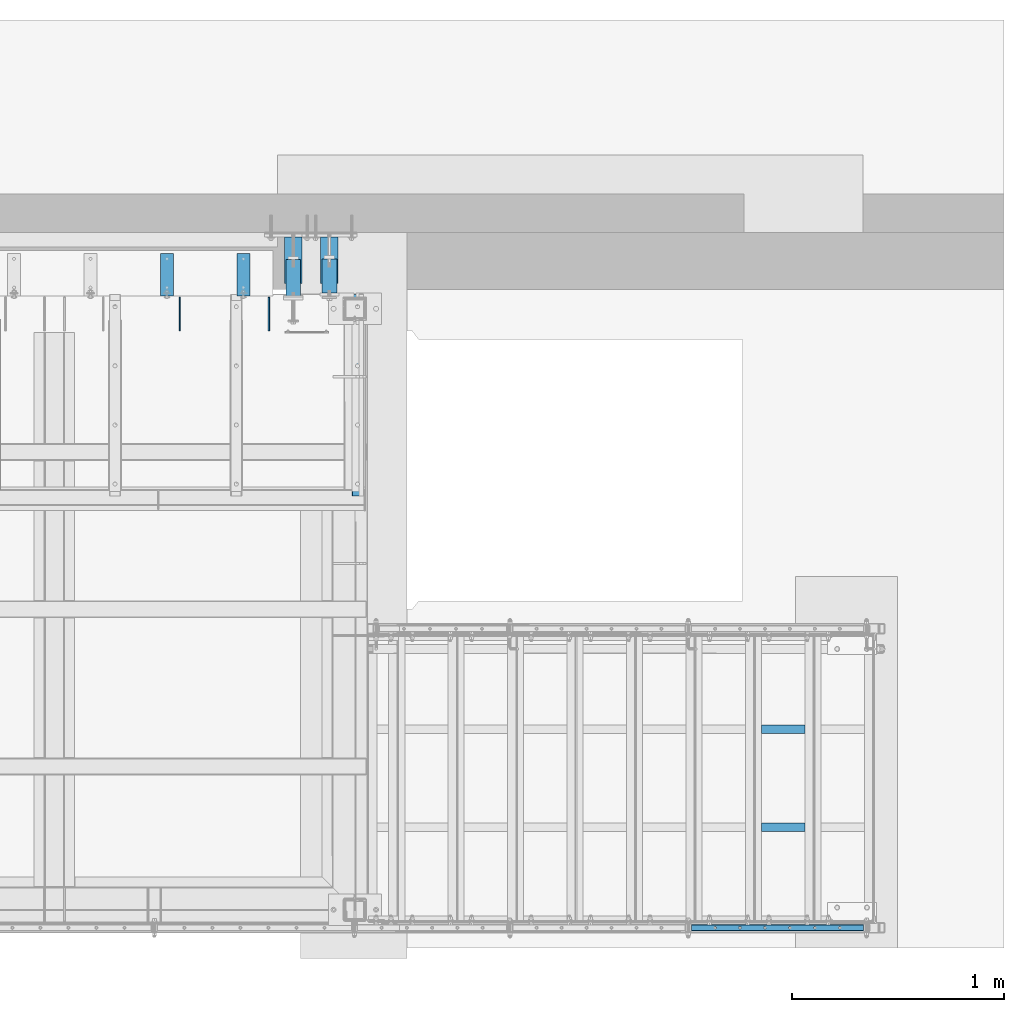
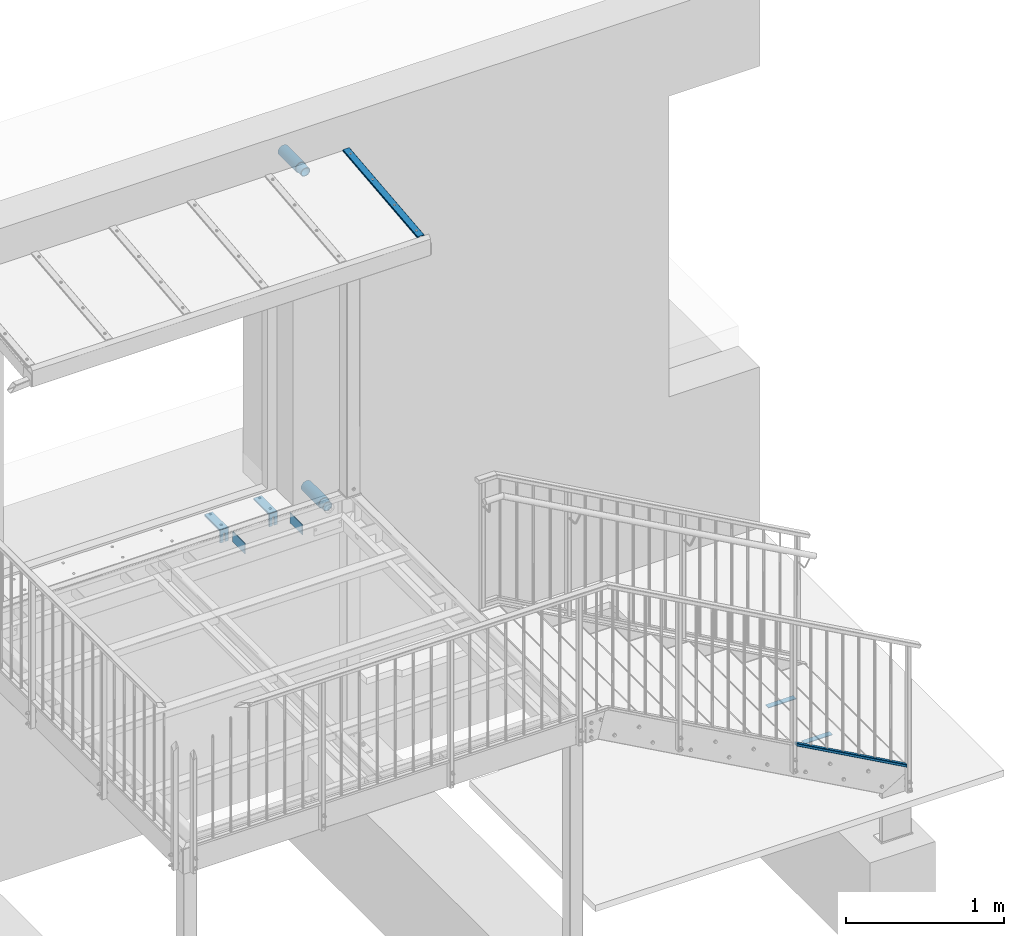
# One storey, part 21 of 116: 12 beams, 2 members, 12 openings.
"""IFC2X3 building model written with IfcOpenShell, lengths in millimetres."""

from ifc_helpers import new_model, entity, si_unit, converted_unit, point, frame, frame_2d, origin, origin_with_axes, origin_2d, origin_2d_with_axis, place, context, project, spatial, polyline, circle_curve, line_curve, trimmed, segment, composite_curve, rectangle, hollow_rectangle, circle, hollow_circle, outline, extrude, clip, halfspace, material, element, save


model = new_model("IFC2X3")

# Units and contexts
model_context = context("Model", 3, precision=1e-09, world=origin_with_axes())
ifc_project = project(units=[si_unit("LENGTHUNIT", "METRE", prefix="MILLI"), si_unit("AREAUNIT", "SQUARE_METRE"), si_unit("VOLUMEUNIT", "CUBIC_METRE"), converted_unit("PLANEANGLEUNIT", "DEGREE", entity("IfcPlaneAngleMeasure", 0.01745329), si_unit("PLANEANGLEUNIT", "RADIAN"), dimensions=[0, 0, 0, 0, 0, 0, 0])], contexts=[model_context])

# Site, building, storey
site_placement = place(None, origin_with_axes())
site = spatial("IfcSite", under=ifc_project, at=site_placement, Name="Site", CompositionType="ELEMENT")
building_placement = place(site_placement, origin_with_axes())
building = spatial("IfcBuilding", under=site, at=building_placement, Name="Struktur 1", CompositionType="ELEMENT")
storey_placement = place(building_placement, origin_with_axes())
storey = spatial("IfcBuildingStorey", under=building, at=storey_placement, Name="Default Storey", CompositionType="ELEMENT", Elevation=0.0)

# Member, openings
ifc_material_1 = material(Name="S235JR")
member_1_placement = place(None, frame((58179.549134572, 11080.325462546, 2512.640850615), z_axis=(0.0, -0.994521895, -0.104528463), x_axis=(1.0, 0.0, 0.0)))
member_1 = element("IfcMember", 1, at=member_1_placement, inside=storey, material=ifc_material_1, Name="-", ObjectType="-", context=model_context, shape_type="SweptSolid", body=[
    extrude(outline(composite_curve([segment(trimmed(line_curve((10.75, -4.5), (1.0, 0.0), 0.5), [point((10.75, -4.5))], [point((11.25, -4.5))], True, "CARTESIAN"), True, "CONTINUOUS"), segment(trimmed(line_curve((11.25, -4.5), (0.0, 1.0), 1.0), [point((11.25, -4.5))], [point((11.25, -3.5))], True, "CARTESIAN"), True, "CONTINUOUS"), segment(trimmed(line_curve((11.25, -3.5), (1.0, 0.0), 1.0), [point((11.25, -3.5))], [point((12.25, -3.5))], True, "CARTESIAN"), True, "CONTINUOUS"), segment(trimmed(line_curve((12.25, -3.5), (0.0, -1.0), 1.0), [point((12.25, -3.5))], [point((12.25, -4.5))], True, "CARTESIAN"), True, "CONTINUOUS"), segment(trimmed(line_curve((12.25, -4.5), (1.0, 0.0), 1.0), [point((12.25, -4.5))], [point((13.25, -4.5))], True, "CARTESIAN"), True, "CONTINUOUS"), segment(trimmed(line_curve((13.25, -4.5), (0.0, 1.0), 1.0), [point((13.25, -4.5))], [point((13.25, -3.5))], True, "CARTESIAN"), True, "CONTINUOUS"), segment(trimmed(line_curve((13.25, -3.5), (1.0, 0.0), 1.0), [point((13.25, -3.5))], [point((14.25, -3.5))], True, "CARTESIAN"), True, "CONTINUOUS"), segment(trimmed(line_curve((14.25, -3.5), (0.0, -1.0), 1.0), [point((14.25, -3.5))], [point((14.25, -4.5))], True, "CARTESIAN"), True, "CONTINUOUS"), segment(trimmed(line_curve((14.25, -4.5), (1.0, 0.0), 1.0), [point((14.25, -4.5))], [point((15.25, -4.5))], True, "CARTESIAN"), True, "CONTINUOUS"), segment(trimmed(line_curve((15.25, -4.5), (0.0, 1.0), 1.0), [point((15.25, -4.5))], [point((15.25, -3.5))], True, "CARTESIAN"), True, "CONTINUOUS"), segment(trimmed(line_curve((15.25, -3.5), (1.0, 0.0), 1.0), [point((15.25, -3.5))], [point((16.25, -3.5))], True, "CARTESIAN"), True, "CONTINUOUS"), segment(trimmed(line_curve((16.25, -3.5), (0.0, -1.0), 1.0), [point((16.25, -3.5))], [point((16.25, -4.5))], True, "CARTESIAN"), True, "CONTINUOUS"), segment(trimmed(line_curve((16.25, -4.5), (1.0, 0.0), 1.0), [point((16.25, -4.5))], [point((17.25, -4.5))], True, "CARTESIAN"), True, "CONTINUOUS"), segment(trimmed(line_curve((17.25, -4.5), (0.0, 1.0), 1.0), [point((17.25, -4.5))], [point((17.25, -3.5))], True, "CARTESIAN"), True, "CONTINUOUS"), segment(trimmed(line_curve((17.25, -3.5), (1.0, 0.0), 1.0), [point((17.25, -3.5))], [point((18.25, -3.5))], True, "CARTESIAN"), True, "CONTINUOUS"), segment(trimmed(line_curve((18.25, -3.5), (0.0, -1.0), 1.0), [point((18.25, -3.5))], [point((18.25, -4.5))], True, "CARTESIAN"), True, "CONTINUOUS"), segment(trimmed(line_curve((18.25, -4.5), (1.0, 0.0), 1.0), [point((18.25, -4.5))], [point((19.25, -4.5))], True, "CARTESIAN"), True, "CONTINUOUS"), segment(trimmed(line_curve((19.25, -4.5), (0.0, 1.0), 1.0), [point((19.25, -4.5))], [point((19.25, -3.5))], True, "CARTESIAN"), True, "CONTINUOUS"), segment(trimmed(line_curve((19.25, -3.5), (1.0, 0.0), 1.0), [point((19.25, -3.5))], [point((20.25, -3.5))], True, "CARTESIAN"), True, "CONTINUOUS"), segment(trimmed(line_curve((20.25, -3.5), (0.0, -1.0), 1.0), [point((20.25, -3.5))], [point((20.25, -4.5))], True, "CARTESIAN"), True, "CONTINUOUS"), segment(trimmed(line_curve((20.25, -4.5), (1.0, 0.0), 1.0), [point((20.25, -4.5))], [point((21.25, -4.5))], True, "CARTESIAN"), True, "CONTINUOUS"), segment(trimmed(line_curve((21.25, -4.5), (0.0, 1.0), 1.0), [point((21.25, -4.5))], [point((21.25, -3.5))], True, "CARTESIAN"), True, "CONTINUOUS"), segment(trimmed(line_curve((21.25, -3.5), (1.0, 0.0), 1.0), [point((21.25, -3.5))], [point((22.25, -3.5))], True, "CARTESIAN"), True, "CONTINUOUS"), segment(trimmed(line_curve((22.25, -3.5), (0.0, -1.0), 1.0), [point((22.25, -3.5))], [point((22.25, -4.5))], True, "CARTESIAN"), True, "CONTINUOUS"), segment(trimmed(line_curve((22.25, -4.5), (1.0, 0.0), 1.0), [point((22.25, -4.5))], [point((23.25, -4.5))], True, "CARTESIAN"), True, "CONTINUOUS"), segment(trimmed(line_curve((23.25, -4.5), (0.0, 1.0), 1.0), [point((23.25, -4.5))], [point((23.25, -3.5))], True, "CARTESIAN"), True, "CONTINUOUS"), segment(trimmed(line_curve((23.25, -3.5), (1.0, 0.0), 1.0), [point((23.25, -3.5))], [point((24.25, -3.5))], True, "CARTESIAN"), True, "CONTINUOUS"), segment(trimmed(line_curve((24.25, -3.5), (0.0, -1.0), 1.0), [point((24.25, -3.5))], [point((24.25, -4.5))], True, "CARTESIAN"), True, "CONTINUOUS"), segment(trimmed(line_curve((24.25, -4.5), (1.0, 0.0), 1.0), [point((24.25, -4.5))], [point((25.25, -4.5))], True, "CARTESIAN"), True, "CONTINUOUS"), segment(trimmed(line_curve((25.25, -4.5), (0.0, 1.0), 1.0), [point((25.25, -4.5))], [point((25.25, -3.5))], True, "CARTESIAN"), True, "CONTINUOUS"), segment(trimmed(line_curve((25.25, -3.5), (1.0, 0.0), 1.0), [point((25.25, -3.5))], [point((26.25, -3.5))], True, "CARTESIAN"), True, "CONTINUOUS"), segment(trimmed(line_curve((26.25, -3.5), (0.0, -1.0), 1.0), [point((26.25, -3.5))], [point((26.25, -4.5))], True, "CARTESIAN"), True, "CONTINUOUS"), segment(trimmed(line_curve((26.25, -4.5), (1.0, 0.0), 0.5), [point((26.25, -4.5))], [point((26.75, -4.5))], True, "CARTESIAN"), True, "CONTINUOUS"), segment(trimmed(line_curve((26.75, -4.5), (0.0, 1.0), 4.0), [point((26.75, -4.5))], [point((26.75, -0.5))], True, "CARTESIAN"), True, "CONTINUOUS"), segment(trimmed(line_curve((26.75, -0.5), (-1.0, 0.0), 1.75), [point((26.75, -0.5))], [point((25.0, -0.5))], True, "CARTESIAN"), True, "CONTINUOUS"), segment(trimmed(line_curve((25.0, -0.5), (0.0, 1.0), 1.5), [point((25.0, -0.5))], [point((25.0, 1.0))], True, "CARTESIAN"), True, "CONTINUOUS"), segment(trimmed(circle_curve(frame_2d((21.499999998, 0.999999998), x_axis=(1.0, 0.0)), 3.500000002), [point((25.0, 1.0))], [point((21.5, 4.5))], True, "CARTESIAN"), True, "CONTINUOUS"), segment(trimmed(line_curve((21.5, 4.5), (-1.0, 0.0), 43.0), [point((21.5, 4.5))], [point((-21.5, 4.5))], True, "CARTESIAN"), True, "CONTINUOUS"), segment(trimmed(circle_curve(frame_2d((-21.499999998, 0.999999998), x_axis=(1.0, 0.0)), 3.500000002), [point((-21.5, 4.5))], [point((-25.0, 1.0))], True, "CARTESIAN"), True, "CONTINUOUS"), segment(trimmed(line_curve((-25.0, 1.0), (0.0, -1.0), 1.5), [point((-25.0, 1.0))], [point((-25.0, -0.5))], True, "CARTESIAN"), True, "CONTINUOUS"), segment(trimmed(line_curve((-25.0, -0.5), (-1.0, 0.0), 1.75), [point((-25.0, -0.5))], [point((-26.75, -0.5))], True, "CARTESIAN"), True, "CONTINUOUS"), segment(trimmed(line_curve((-26.75, -0.5), (0.0, -1.0), 4.0), [point((-26.75, -0.5))], [point((-26.75, -4.5))], True, "CARTESIAN"), True, "CONTINUOUS"), segment(trimmed(line_curve((-26.75, -4.5), (1.0, 0.0), 0.5), [point((-26.75, -4.5))], [point((-26.25, -4.5))], True, "CARTESIAN"), True, "CONTINUOUS"), segment(trimmed(line_curve((-26.25, -4.5), (0.0, 1.0), 1.0), [point((-26.25, -4.5))], [point((-26.25, -3.5))], True, "CARTESIAN"), True, "CONTINUOUS"), segment(trimmed(line_curve((-26.25, -3.5), (1.0, 0.0), 1.0), [point((-26.25, -3.5))], [point((-25.25, -3.5))], True, "CARTESIAN"), True, "CONTINUOUS"), segment(trimmed(line_curve((-25.25, -3.5), (0.0, -1.0), 1.0), [point((-25.25, -3.5))], [point((-25.25, -4.5))], True, "CARTESIAN"), True, "CONTINUOUS"), segment(trimmed(line_curve((-25.25, -4.5), (1.0, 0.0), 1.0), [point((-25.25, -4.5))], [point((-24.25, -4.5))], True, "CARTESIAN"), True, "CONTINUOUS"), segment(trimmed(line_curve((-24.25, -4.5), (0.0, 1.0), 1.0), [point((-24.25, -4.5))], [point((-24.25, -3.5))], True, "CARTESIAN"), True, "CONTINUOUS"), segment(trimmed(line_curve((-24.25, -3.5), (1.0, 0.0), 1.0), [point((-24.25, -3.5))], [point((-23.25, -3.5))], True, "CARTESIAN"), True, "CONTINUOUS"), segment(trimmed(line_curve((-23.25, -3.5), (0.0, -1.0), 1.0), [point((-23.25, -3.5))], [point((-23.25, -4.5))], True, "CARTESIAN"), True, "CONTINUOUS"), segment(trimmed(line_curve((-23.25, -4.5), (1.0, 0.0), 1.0), [point((-23.25, -4.5))], [point((-22.25, -4.5))], True, "CARTESIAN"), True, "CONTINUOUS"), segment(trimmed(line_curve((-22.25, -4.5), (0.0, 1.0), 1.0), [point((-22.25, -4.5))], [point((-22.25, -3.5))], True, "CARTESIAN"), True, "CONTINUOUS"), segment(trimmed(line_curve((-22.25, -3.5), (1.0, 0.0), 1.0), [point((-22.25, -3.5))], [point((-21.25, -3.5))], True, "CARTESIAN"), True, "CONTINUOUS"), segment(trimmed(line_curve((-21.25, -3.5), (0.0, -1.0), 1.0), [point((-21.25, -3.5))], [point((-21.25, -4.5))], True, "CARTESIAN"), True, "CONTINUOUS"), segment(trimmed(line_curve((-21.25, -4.5), (1.0, 0.0), 1.0), [point((-21.25, -4.5))], [point((-20.25, -4.5))], True, "CARTESIAN"), True, "CONTINUOUS"), segment(trimmed(line_curve((-20.25, -4.5), (0.0, 1.0), 1.0), [point((-20.25, -4.5))], [point((-20.25, -3.5))], True, "CARTESIAN"), True, "CONTINUOUS"), segment(trimmed(line_curve((-20.25, -3.5), (1.0, 0.0), 1.0), [point((-20.25, -3.5))], [point((-19.25, -3.5))], True, "CARTESIAN"), True, "CONTINUOUS"), segment(trimmed(line_curve((-19.25, -3.5), (0.0, -1.0), 1.0), [point((-19.25, -3.5))], [point((-19.25, -4.5))], True, "CARTESIAN"), True, "CONTINUOUS"), segment(trimmed(line_curve((-19.25, -4.5), (1.0, 0.0), 1.0), [point((-19.25, -4.5))], [point((-18.25, -4.5))], True, "CARTESIAN"), True, "CONTINUOUS"), segment(trimmed(line_curve((-18.25, -4.5), (0.0, 1.0), 1.0), [point((-18.25, -4.5))], [point((-18.25, -3.5))], True, "CARTESIAN"), True, "CONTINUOUS"), segment(trimmed(line_curve((-18.25, -3.5), (1.0, 0.0), 1.0), [point((-18.25, -3.5))], [point((-17.25, -3.5))], True, "CARTESIAN"), True, "CONTINUOUS"), segment(trimmed(line_curve((-17.25, -3.5), (0.0, -1.0), 1.0), [point((-17.25, -3.5))], [point((-17.25, -4.5))], True, "CARTESIAN"), True, "CONTINUOUS"), segment(trimmed(line_curve((-17.25, -4.5), (1.0, 0.0), 1.0), [point((-17.25, -4.5))], [point((-16.25, -4.5))], True, "CARTESIAN"), True, "CONTINUOUS"), segment(trimmed(line_curve((-16.25, -4.5), (0.0, 1.0), 1.0), [point((-16.25, -4.5))], [point((-16.25, -3.5))], True, "CARTESIAN"), True, "CONTINUOUS"), segment(trimmed(line_curve((-16.25, -3.5), (1.0, 0.0), 1.0), [point((-16.25, -3.5))], [point((-15.25, -3.5))], True, "CARTESIAN"), True, "CONTINUOUS"), segment(trimmed(line_curve((-15.25, -3.5), (0.0, -1.0), 1.0), [point((-15.25, -3.5))], [point((-15.25, -4.5))], True, "CARTESIAN"), True, "CONTINUOUS"), segment(trimmed(line_curve((-15.25, -4.5), (1.0, 0.0), 1.0), [point((-15.25, -4.5))], [point((-14.25, -4.5))], True, "CARTESIAN"), True, "CONTINUOUS"), segment(trimmed(line_curve((-14.25, -4.5), (0.0, 1.0), 1.0), [point((-14.25, -4.5))], [point((-14.25, -3.5))], True, "CARTESIAN"), True, "CONTINUOUS"), segment(trimmed(line_curve((-14.25, -3.5), (1.0, 0.0), 1.0), [point((-14.25, -3.5))], [point((-13.25, -3.5))], True, "CARTESIAN"), True, "CONTINUOUS"), segment(trimmed(line_curve((-13.25, -3.5), (0.0, -1.0), 1.0), [point((-13.25, -3.5))], [point((-13.25, -4.5))], True, "CARTESIAN"), True, "CONTINUOUS"), segment(trimmed(line_curve((-13.25, -4.5), (1.0, 0.0), 1.0), [point((-13.25, -4.5))], [point((-12.25, -4.5))], True, "CARTESIAN"), True, "CONTINUOUS"), segment(trimmed(line_curve((-12.25, -4.5), (0.0, 1.0), 1.0), [point((-12.25, -4.5))], [point((-12.25, -3.5))], True, "CARTESIAN"), True, "CONTINUOUS"), segment(trimmed(line_curve((-12.25, -3.5), (1.0, 0.0), 1.0), [point((-12.25, -3.5))], [point((-11.25, -3.5))], True, "CARTESIAN"), True, "CONTINUOUS"), segment(trimmed(line_curve((-11.25, -3.5), (0.0, -1.0), 1.0), [point((-11.25, -3.5))], [point((-11.25, -4.5))], True, "CARTESIAN"), True, "CONTINUOUS"), segment(trimmed(line_curve((-11.25, -4.5), (1.0, 0.0), 0.5), [point((-11.25, -4.5))], [point((-10.75, -4.5))], True, "CARTESIAN"), True, "CONTINUOUS"), segment(trimmed(line_curve((-10.75, -4.5), (0.0, 1.0), 4.0), [point((-10.75, -4.5))], [point((-10.75, -0.5))], True, "CARTESIAN"), True, "CONTINUOUS"), segment(trimmed(line_curve((-10.75, -0.5), (-1.0, 0.0), 1.75), [point((-10.75, -0.5))], [point((-12.5, -0.5))], True, "CARTESIAN"), True, "CONTINUOUS"), segment(trimmed(line_curve((-12.5, -0.5), (0.0, 1.0), 3.0), [point((-12.5, -0.5))], [point((-12.5, 2.5))], True, "CARTESIAN"), True, "CONTINUOUS"), segment(trimmed(line_curve((-12.5, 2.5), (1.0, 0.0), 25.0), [point((-12.5, 2.5))], [point((12.5, 2.5))], True, "CARTESIAN"), True, "CONTINUOUS"), segment(trimmed(line_curve((12.5, 2.5), (0.0, -1.0), 3.0), [point((12.5, 2.5))], [point((12.5, -0.5))], True, "CARTESIAN"), True, "CONTINUOUS"), segment(trimmed(line_curve((12.5, -0.5), (-1.0, 0.0), 1.75), [point((12.5, -0.5))], [point((10.75, -0.5))], True, "CARTESIAN"), True, "CONTINUOUS"), segment(trimmed(line_curve((10.75, -0.5), (0.0, -1.0), 4.0), [point((10.75, -0.5))], [point((10.75, -4.5))], True, "CARTESIAN"), True, "CONTINUOUS")], self_intersect=False), holes=[composite_curve([segment(trimmed(line_curve((16.25, -0.5), (1.0, 0.0), 5.0), [point((16.25, -0.5))], [point((21.25, -0.5))], True, "CARTESIAN"), True, "CONTINUOUS"), segment(trimmed(line_curve((21.25, -0.5), (0.0, 1.0), 1.5), [point((21.25, -0.5))], [point((21.25, 1.0))], True, "CARTESIAN"), True, "CONTINUOUS"), segment(trimmed(line_curve((21.25, 1.0), (1.0, 0.0), 2.25), [point((21.25, 1.0))], [point((23.5, 1.0))], True, "CARTESIAN"), True, "CONTINUOUS"), segment(trimmed(circle_curve(frame_2d((21.499999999, 0.999999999), x_axis=(1.0, 0.0)), 2.000000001), [point((23.5, 1.0))], [point((21.5, 3.0))], True, "CARTESIAN"), True, "CONTINUOUS"), segment(trimmed(line_curve((21.5, 3.0), (-1.0, 0.0), 7.5), [point((21.5, 3.0))], [point((14.0, 3.0))], True, "CARTESIAN"), True, "CONTINUOUS"), segment(trimmed(line_curve((14.0, 3.0), (0.0, -1.0), 2.0), [point((14.0, 3.0))], [point((14.0, 1.0))], True, "CARTESIAN"), True, "CONTINUOUS"), segment(trimmed(line_curve((14.0, 1.0), (1.0, 0.0), 2.25), [point((14.0, 1.0))], [point((16.25, 1.0))], True, "CARTESIAN"), True, "CONTINUOUS"), segment(trimmed(line_curve((16.25, 1.0), (0.0, -1.0), 1.5), [point((16.25, 1.0))], [point((16.25, -0.5))], True, "CARTESIAN"), True, "CONTINUOUS")], self_intersect=False), composite_curve([segment(trimmed(line_curve((-16.25, -0.5), (0.0, 1.0), 1.5), [point((-16.25, -0.5))], [point((-16.25, 1.0))], True, "CARTESIAN"), True, "CONTINUOUS"), segment(trimmed(line_curve((-16.25, 1.0), (1.0, 0.0), 2.25), [point((-16.25, 1.0))], [point((-14.0, 1.0))], True, "CARTESIAN"), True, "CONTINUOUS"), segment(trimmed(line_curve((-14.0, 1.0), (0.0, 1.0), 2.0), [point((-14.0, 1.0))], [point((-14.0, 3.0))], True, "CARTESIAN"), True, "CONTINUOUS"), segment(trimmed(line_curve((-14.0, 3.0), (-1.0, 0.0), 7.5), [point((-14.0, 3.0))], [point((-21.5, 3.0))], True, "CARTESIAN"), True, "CONTINUOUS"), segment(trimmed(circle_curve(frame_2d((-21.499999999, 0.999999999), x_axis=(1.0, 0.0)), 2.000000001), [point((-21.5, 3.0))], [point((-23.5, 1.0))], True, "CARTESIAN"), True, "CONTINUOUS"), segment(trimmed(line_curve((-23.5, 1.0), (1.0, 0.0), 2.25), [point((-23.5, 1.0))], [point((-21.25, 1.0))], True, "CARTESIAN"), True, "CONTINUOUS"), segment(trimmed(line_curve((-21.25, 1.0), (0.0, -1.0), 1.5), [point((-21.25, 1.0))], [point((-21.25, -0.5))], True, "CARTESIAN"), True, "CONTINUOUS"), segment(trimmed(line_curve((-21.25, -0.5), (1.0, 0.0), 5.0), [point((-21.25, -0.5))], [point((-16.25, -0.5))], True, "CARTESIAN"), True, "CONTINUOUS")], self_intersect=False)]), origin(), (0.0, 0.0, -1.0), 954.995580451),
])
opening_1_placement = place(member_1_placement, frame((2e-09, 2.0, -897.497790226), z_axis=(0.0, 1.0, 0.0), x_axis=(1.0, 0.0, 0.0)))
element("IfcOpeningElement", 2, at=opening_1_placement, cuts=member_1, ObjectType="Opening", context=model_context, shape_type="SweptSolid", body=[
    extrude(circle(Radius=6.001, at=origin_2d_with_axis()), origin(), (0.0, 0.0, 1.0), 3.0),
])
opening_2_placement = place(member_1_placement, frame((2e-09, 2.0, -337.497790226), z_axis=(0.0, 1.0, 0.0), x_axis=(1.0, 0.0, 0.0)))
element("IfcOpeningElement", 3, at=opening_2_placement, cuts=member_1, ObjectType="Opening", context=model_context, shape_type="SweptSolid", body=[
    extrude(circle(Radius=6.001, at=origin_2d_with_axis()), origin(), (0.0, 0.0, 1.0), 3.0),
])
opening_3_placement = place(member_1_placement, frame((2e-09, 2.0, -57.497790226), z_axis=(0.0, 1.0, 0.0), x_axis=(1.0, 0.0, 0.0)))
element("IfcOpeningElement", 4, at=opening_3_placement, cuts=member_1, ObjectType="Opening", context=model_context, shape_type="SweptSolid", body=[
    extrude(circle(Radius=6.001, at=origin_2d_with_axis()), origin(), (0.0, 0.0, 1.0), 3.0),
])
opening_4_placement = place(member_1_placement, frame((2e-09, 2.0, -617.497790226), z_axis=(0.0, 1.0, 0.0), x_axis=(1.0, 0.0, 0.0)))
element("IfcOpeningElement", 5, at=opening_4_placement, cuts=member_1, ObjectType="Opening", context=model_context, shape_type="SweptSolid", body=[
    extrude(circle(Radius=6.001, at=origin_2d_with_axis()), origin(), (0.0, 0.0, 1.0), 3.0),
])

# Beams
ifc_material_2 = material(Name="Gummi")
for number, where, z_axis, x_axis in (
    (6, (57642.050634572, 12222.358883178, -11.5), (0.0, -1.0, 0.0), (1.0, 0.0, 0.0)),
    (7, (57282.050634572, 12222.358883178, -11.5), (0.0, -1.0, 0.0), (1.0, 0.0, 0.0)),
):
    element("IfcBeam", number, at=place(None, frame(where, z_axis=z_axis, x_axis=x_axis)), inside=storey, material=ifc_material_2, Name="-", ObjectType="-", context=model_context, shape_type="SweptSolid", body=[
        extrude(outline(polyline([(-30.0, 1.5), (-30.0, -1.5), (30.0, -1.5), (30.0, 1.5), (-30.0, 1.5)])), origin(), (0.0, 0.0, 1.0), 200.0),
    ])
beam_1_placement = place(None, frame((58047.049134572, 12301.357883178, -115.0), z_axis=(0.0, 1.0, 0.0), x_axis=(-1.0, 0.0, 0.0)))
element("IfcBeam", 8, at=beam_1_placement, inside=storey, material=ifc_material_1, Name="Girder", ObjectType="Girder", context=model_context, shape_type="SweptSolid", body=[
    extrude(hollow_circle(Radius=41.25, WallThickness=5.0, at=origin_2d()), origin(), (0.0, 0.0, -1.0), 220.0),
])
beam_2_placement = place(None, frame((58047.049134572, 12037.357883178, -115.0), z_axis=(0.0, 1.0, 0.0), x_axis=(-1.0, 0.0, 0.0)))
element("IfcBeam", 9, at=beam_2_placement, inside=storey, material=ifc_material_1, Name="Girder", ObjectType="Girder", context=model_context, shape_type="SweptSolid", body=[
    extrude(hollow_circle(Radius=35.0, WallThickness=5.0, at=origin_2d()), origin(), (0.0, 0.0, 1.0), 160.0),
])
beam_3_placement = place(None, frame((57877.049134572, 12301.357883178, 2545.0), z_axis=(0.0, 1.0, 0.0), x_axis=(-1.0, 0.0, 0.0)))
element("IfcBeam", 10, at=beam_3_placement, inside=storey, material=ifc_material_1, Name="Girder", ObjectType="Girder", context=model_context, shape_type="SweptSolid", body=[
    extrude(hollow_circle(Radius=41.25, WallThickness=5.0, at=origin_2d()), origin(), (0.0, 0.0, -1.0), 220.0),
])
beam_4_placement = place(None, frame((57877.049134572, 11968.647762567, 2545.0), z_axis=(0.0, 1.0, 0.0), x_axis=(-1.0, 0.0, 0.0)))
element("IfcBeam", 11, at=beam_4_placement, inside=storey, material=ifc_material_1, Name="Girder", ObjectType="Girder", context=model_context, shape_type="Clipping", body=[
    clip(extrude(hollow_circle(Radius=35.0, WallThickness=5.0, at=origin_2d()), origin(), (0.0, 0.0, 1.0), 224.770120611), halfspace(frame((57877.049134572, -1267.425508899, 186.661563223), z_axis=(0.0, 0.104528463, 0.994521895), x_axis=(1.0, 0.0, 0.0)), True)),
])

# Beam, opening
ifc_material_3 = material(Name="Alu")
beam_5_placement = place(None, frame((57252.050634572, 12122.358883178, -63.0), z_axis=(1.0, 0.0, 0.0), x_axis=(0.0, 1.0, 0.0)))
beam_5 = element("IfcBeam", 12, at=beam_5_placement, inside=storey, material=ifc_material_3, Name="-", ObjectType="-", context=model_context, shape_type="SweptSolid", body=[
    extrude(outline(polyline([(-100.0, -50.0), (-90.0, -50.0), (-90.0, 40.0), (100.0, 40.0), (100.0, 50.0), (-100.0, 50.0), (-100.0, -50.0)])), origin(), (0.0, 0.0, 1.0), 60.0),
])
opening_5_placement = place(beam_5_placement, frame((-200.1, -53.501, 23.499), z_axis=(-1.0, 0.0, 0.0), x_axis=(0.0, -0.707106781, 0.707106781)))
element("IfcOpeningElement", 13, at=opening_5_placement, cuts=beam_5, ObjectType="Opening", context=model_context, shape_type="SweptSolid", body=[
    extrude(outline(composite_curve([segment(trimmed(circle_curve(frame_2d((4.596194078, 4.596194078), x_axis=(1.0, 0.0)), 6.5), [point((0.0, 0.0))], [point((9.192388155, 0.0))], True, "CARTESIAN"), True, "CONTINUOUS"), segment(trimmed(line_curve((9.192388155, 0.0), (0.707106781, 0.707106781), 0.002), [point((9.192388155, 0.0))], [point((9.193802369, 0.001414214))], True, "CARTESIAN"), True, "CONTINUOUS"), segment(trimmed(circle_curve(frame_2d((4.597608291, 4.597608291), x_axis=(1.0, 0.0)), 6.5), [point((9.193802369, 0.001414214))], [point((9.193802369, 9.193802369))], True, "CARTESIAN"), True, "CONTINUOUS"), segment(trimmed(line_curve((9.193802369, 9.193802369), (-0.707106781, 0.707106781), 67.002), [point((9.193802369, 9.193802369))], [point((-38.183766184, 56.571370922))], True, "CARTESIAN"), True, "CONTINUOUS"), segment(trimmed(circle_curve(frame_2d((-42.779960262, 51.975176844), x_axis=(1.0, 0.0)), 6.5), [point((-38.183766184, 56.571370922))], [point((-47.376154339, 56.571370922))], True, "CARTESIAN"), True, "CONTINUOUS"), segment(trimmed(line_curve((-47.376154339, 56.571370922), (-0.707106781, -0.707106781), 0.002), [point((-47.376154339, 56.571370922))], [point((-47.377568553, 56.569956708))], True, "CARTESIAN"), True, "CONTINUOUS"), segment(trimmed(circle_curve(frame_2d((-42.781374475, 51.973762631), x_axis=(1.0, 0.0)), 6.5), [point((-47.377568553, 56.569956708))], [point((-47.377568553, 47.377568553))], True, "CARTESIAN"), True, "CONTINUOUS"), segment(trimmed(line_curve((-47.377568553, 47.377568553), (0.707106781, -0.707106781), 67.002), [point((-47.377568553, 47.377568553))], [point((0.0, 0.0))], True, "CARTESIAN"), True, "CONTINUOUS")], self_intersect=False)), origin(), (0.0, 0.0, -1.0), 400.2),
])

beam_6_placement = place(None, frame((57612.050634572, 12122.358883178, -63.0), z_axis=(1.0, 0.0, 0.0), x_axis=(0.0, 1.0, 0.0)))
beam_6 = element("IfcBeam", 14, at=beam_6_placement, inside=storey, material=ifc_material_3, Name="-", ObjectType="-", context=model_context, shape_type="SweptSolid", body=[
    extrude(outline(polyline([(-100.0, -50.0), (-90.0, -50.0), (-90.0, 40.0), (100.0, 40.0), (100.0, 50.0), (-100.0, 50.0), (-100.0, -50.0)])), origin(), (0.0, 0.0, 1.0), 60.0),
])
opening_6_placement = place(beam_6_placement, frame((-200.1, -53.501, 23.499), z_axis=(-1.0, 0.0, 0.0), x_axis=(0.0, -0.707106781, 0.707106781)))
element("IfcOpeningElement", 15, at=opening_6_placement, cuts=beam_6, ObjectType="Opening", context=model_context, shape_type="SweptSolid", body=[
    extrude(outline(composite_curve([segment(trimmed(circle_curve(frame_2d((4.596194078, 4.596194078), x_axis=(1.0, 0.0)), 6.5), [point((0.0, 0.0))], [point((9.192388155, 0.0))], True, "CARTESIAN"), True, "CONTINUOUS"), segment(trimmed(line_curve((9.192388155, 0.0), (0.707106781, 0.707106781), 0.002), [point((9.192388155, 0.0))], [point((9.193802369, 0.001414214))], True, "CARTESIAN"), True, "CONTINUOUS"), segment(trimmed(circle_curve(frame_2d((4.597608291, 4.597608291), x_axis=(1.0, 0.0)), 6.5), [point((9.193802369, 0.001414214))], [point((9.193802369, 9.193802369))], True, "CARTESIAN"), True, "CONTINUOUS"), segment(trimmed(line_curve((9.193802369, 9.193802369), (-0.707106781, 0.707106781), 67.002), [point((9.193802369, 9.193802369))], [point((-38.183766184, 56.571370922))], True, "CARTESIAN"), True, "CONTINUOUS"), segment(trimmed(circle_curve(frame_2d((-42.779960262, 51.975176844), x_axis=(1.0, 0.0)), 6.5), [point((-38.183766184, 56.571370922))], [point((-47.376154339, 56.571370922))], True, "CARTESIAN"), True, "CONTINUOUS"), segment(trimmed(line_curve((-47.376154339, 56.571370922), (-0.707106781, -0.707106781), 0.002), [point((-47.376154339, 56.571370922))], [point((-47.377568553, 56.569956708))], True, "CARTESIAN"), True, "CONTINUOUS"), segment(trimmed(circle_curve(frame_2d((-42.781374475, 51.973762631), x_axis=(1.0, 0.0)), 6.5), [point((-47.377568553, 56.569956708))], [point((-47.377568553, 47.377568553))], True, "CARTESIAN"), True, "CONTINUOUS"), segment(trimmed(line_curve((-47.377568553, 47.377568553), (0.707106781, -0.707106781), 67.002), [point((-47.377568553, 47.377568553))], [point((0.0, 0.0))], True, "CARTESIAN"), True, "CONTINUOUS")], self_intersect=False)), origin(), (0.0, 0.0, -1.0), 400.2),
])

# Beams
for number, where, z_axis, x_axis in (
    (16, (60286.049134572, 9981.358883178, -1130.5), (1.0, 0.0, 0.0), (0.0, 0.0, 1.0)),
    (17, (60286.049134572, 9521.358883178, -1130.5), (1.0, 0.0, 0.0), (0.0, 0.0, 1.0)),
):
    element("IfcBeam", number, at=place(None, frame(where, z_axis=z_axis, x_axis=x_axis)), inside=storey, material=ifc_material_1, Name="-", ObjectType="-", context=model_context, shape_type="SweptSolid", body=[
        extrude(rectangle(XDim=5.0, YDim=40.0, at=origin_2d()), origin(), (0.0, 0.0, -1.0), 204.0),
    ])

# Member, openings
member_2_placement = place(None, frame((60580.076890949, 9047.359883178, -1196.01111299), z_axis=(0.874893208, 0.0, -0.484315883), x_axis=(0.484315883, 0.0, 0.874893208)))
member_2 = element("IfcMember", 18, at=member_2_placement, inside=storey, material=ifc_material_1, Name="-", ObjectType="-", context=model_context, shape_type="Clipping", body=[
    clip(clip(extrude(hollow_rectangle(XDim=20.0, YDim=30.0, WallThickness=2.0, InnerFilletRadius=2.0, OuterFilletRadius=4.0, at=origin_2d()), origin(), (0.0, 0.0, -1.0), 967.0386111), halfspace(frame((1037.650386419, 9047.359883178, -595.02041479), z_axis=(-0.484315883, 0.0, -0.874893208), x_axis=(0.0, 1.0, 0.0)), True)), halfspace(frame((645.355489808, 9047.359883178, -1303.682163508), z_axis=(0.484315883, 0.0, 0.874893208), x_axis=(0.0, -1.0, 0.0)), True)),
])
opening_7_placement = place(member_2_placement, frame((148.612357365, 0.0, -908.254290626), z_axis=(0.874893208, 0.0, -0.484315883), x_axis=(0.0, 1.0, 0.0)))
element("IfcOpeningElement", 19, at=opening_7_placement, cuts=member_2, ObjectType="Opening", context=model_context, shape_type="SweptSolid", body=[
    extrude(outline(circle_curve(frame_2d((0.0, 6.051), x_axis=(1.0, 0.0)), 6.051)), origin(), (0.0, 0.0, -1.0), 169.888767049),
])
opening_8_placement = place(member_2_placement, frame((262.35740189, 0.0, -702.779371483), z_axis=(0.874893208, 0.0, -0.484315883), x_axis=(0.0, 1.0, 0.0)))
element("IfcOpeningElement", 20, at=opening_8_placement, cuts=member_2, ObjectType="Opening", context=model_context, shape_type="SweptSolid", body=[
    extrude(outline(circle_curve(frame_2d((0.0, 6.051), x_axis=(1.0, 0.0)), 6.051)), origin(), (0.0, 0.0, -1.0), 299.898971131),
])
opening_9_placement = place(member_2_placement, frame((205.484879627, 0.0, -805.516831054), z_axis=(0.874893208, 0.0, -0.484315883), x_axis=(0.0, 1.0, 0.0)))
element("IfcOpeningElement", 21, at=opening_9_placement, cuts=member_2, ObjectType="Opening", context=model_context, shape_type="SweptSolid", body=[
    extrude(outline(circle_curve(frame_2d((0.0, 6.051), x_axis=(1.0, 0.0)), 6.051)), origin(), (0.0, 0.0, -1.0), 234.89386909),
])
opening_10_placement = place(member_2_placement, frame((376.102446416, 0.0, -497.30445234), z_axis=(0.874893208, 0.0, -0.484315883), x_axis=(0.0, 1.0, 0.0)))
element("IfcOpeningElement", 22, at=opening_10_placement, cuts=member_2, ObjectType="Opening", context=model_context, shape_type="SweptSolid", body=[
    extrude(outline(circle_curve(frame_2d((0.0, 6.051), x_axis=(1.0, 0.0)), 6.051)), origin(), (0.0, 0.0, -1.0), 429.909175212),
])
opening_11_placement = place(member_2_placement, frame((319.229924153, 0.0, -600.041911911), z_axis=(0.874893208, 0.0, -0.484315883), x_axis=(0.0, 1.0, 0.0)))
element("IfcOpeningElement", 23, at=opening_11_placement, cuts=member_2, ObjectType="Opening", context=model_context, shape_type="SweptSolid", body=[
    extrude(outline(circle_curve(frame_2d((0.0, 6.051), x_axis=(1.0, 0.0)), 6.051)), origin(), (0.0, 0.0, -1.0), 364.904073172),
])
opening_12_placement = place(member_2_placement, frame((432.974968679, 0.0, -394.566992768), z_axis=(0.874893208, 0.0, -0.484315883), x_axis=(0.0, 1.0, 0.0)))
element("IfcOpeningElement", 24, at=opening_12_placement, cuts=member_2, ObjectType="Opening", context=model_context, shape_type="SweptSolid", body=[
    extrude(outline(circle_curve(frame_2d((0.0, 6.051), x_axis=(1.0, 0.0)), 6.051)), origin(), (0.0, 0.0, -1.0), 494.914277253),
])

# Beams
for number, where, z_axis, x_axis in (
    (25, (57342.049134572, 11858.358883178, -88.0), (0.0, -1.0, 0.0), (1.0, 0.0, 0.0)),
    (26, (57762.049134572, 11858.358883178, -88.0), (0.0, -1.0, 0.0), (1.0, 0.0, 0.0)),
):
    element("IfcBeam", number, at=place(None, frame(where, z_axis=z_axis, x_axis=x_axis)), inside=storey, material=ifc_material_1, Name="-", ObjectType="-", context=model_context, shape_type="SweptSolid", body=[
        extrude(rectangle(XDim=6.0, YDim=80.0, at=origin_2d()), origin(), (0.0, 0.0, -1.0), 158.0),
    ])

save(model, "model.ifc")
